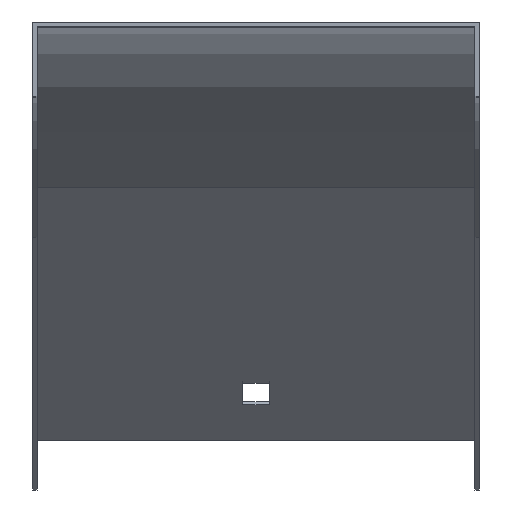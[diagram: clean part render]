
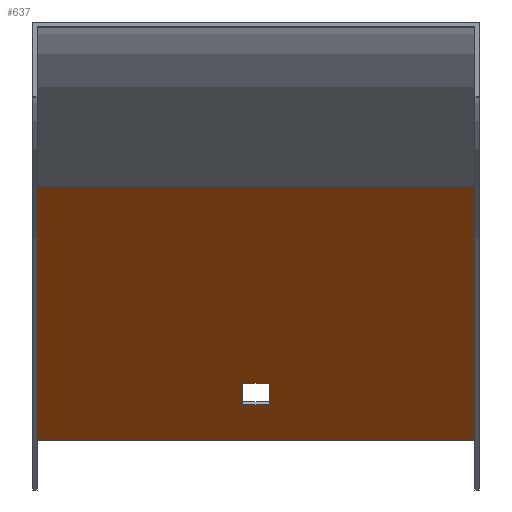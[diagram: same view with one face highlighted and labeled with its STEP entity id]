
A CAD part, top view. The second image highlights one B-rep face of the part: STEP entity #637.
In plain terms, the highlighted planar face has unit normal (0, -0.707, 0.707).
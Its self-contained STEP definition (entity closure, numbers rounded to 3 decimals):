
#20 = VERTEX_POINT ( 'NONE', #686 ) ;
#46 = VECTOR ( 'NONE', #848, 1000. ) ;
#82 = CARTESIAN_POINT ( 'NONE',  ( 51., -37.612, -169.809 ) ) ;
#90 = FACE_BOUND ( 'NONE', #601, .T. ) ;
#96 = CARTESIAN_POINT ( 'NONE',  ( 3., -37.612, -169.809 ) ) ;
#100 = DIRECTION ( 'NONE',  ( 1., 0., 0. ) ) ;
#127 = EDGE_CURVE ( 'NONE', #467, #215, #305, .T. ) ;
#132 = VERTEX_POINT ( 'NONE', #374 ) ;
#134 = DIRECTION ( 'NONE',  ( -1., 0., 0. ) ) ;
#156 = ORIENTED_EDGE ( 'NONE', *, *, #434, .T. ) ;
#159 = VECTOR ( 'NONE', #576, 1000. ) ;
#163 = CARTESIAN_POINT ( 'NONE',  ( 50., -95.185, -227.383 ) ) ;
#170 = CARTESIAN_POINT ( 'NONE',  ( 51., -82.104, -214.301 ) ) ;
#178 = CARTESIAN_POINT ( 'NONE',  ( 51., -37.612, -169.809 ) ) ;
#214 = LINE ( 'NONE', #543, #837 ) ;
#215 = VERTEX_POINT ( 'NONE', #513 ) ;
#223 = DIRECTION ( 'NONE',  ( -1., 0., 0. ) ) ;
#235 = DIRECTION ( 'NONE',  ( 0., 0.707, 0.707 ) ) ;
#241 = LINE ( 'NONE', #294, #685 ) ;
#278 = CARTESIAN_POINT ( 'NONE',  ( 51., -87.053, -219.251 ) ) ;
#294 = CARTESIAN_POINT ( 'NONE',  ( -50., -37.612, -169.809 ) ) ;
#299 = VECTOR ( 'NONE', #134, 1000. ) ;
#301 = EDGE_LOOP ( 'NONE', ( #636, #349, #156, #759 ) ) ;
#304 = EDGE_CURVE ( 'NONE', #394, #20, #311, .T. ) ;
#305 = LINE ( 'NONE', #178, #379 ) ;
#311 = LINE ( 'NONE', #96, #159 ) ;
#322 = CARTESIAN_POINT ( 'NONE',  ( 3., -82.104, -214.301 ) ) ;
#346 = VERTEX_POINT ( 'NONE', #163 ) ;
#349 = ORIENTED_EDGE ( 'NONE', *, *, #524, .F. ) ;
#353 = EDGE_CURVE ( 'NONE', #132, #394, #496, .T. ) ;
#374 = CARTESIAN_POINT ( 'NONE',  ( -3., -82.104, -214.301 ) ) ;
#379 = VECTOR ( 'NONE', #441, 1000. ) ;
#394 = VERTEX_POINT ( 'NONE', #322 ) ;
#434 = EDGE_CURVE ( 'NONE', #346, #467, #788, .T. ) ;
#441 = DIRECTION ( 'NONE',  ( -1., 0., 0. ) ) ;
#458 = ORIENTED_EDGE ( 'NONE', *, *, #353, .T. ) ;
#467 = VERTEX_POINT ( 'NONE', #523 ) ;
#473 = FACE_OUTER_BOUND ( 'NONE', #301, .T. ) ;
#474 = DIRECTION ( 'NONE',  ( 0., 0.707, 0.707 ) ) ;
#483 = DIRECTION ( 'NONE',  ( 0., -0.707, -0.707 ) ) ;
#484 = ORIENTED_EDGE ( 'NONE', *, *, #612, .T. ) ;
#485 = DIRECTION ( 'NONE',  ( 0., -0.707, 0.707 ) ) ;
#496 = LINE ( 'NONE', #170, #682 ) ;
#512 = CARTESIAN_POINT ( 'NONE',  ( -3., -87.053, -219.251 ) ) ;
#513 = CARTESIAN_POINT ( 'NONE',  ( -50., -37.612, -169.809 ) ) ;
#523 = CARTESIAN_POINT ( 'NONE',  ( 50., -37.612, -169.809 ) ) ;
#524 = EDGE_CURVE ( 'NONE', #346, #784, #536, .T. ) ;
#536 = LINE ( 'NONE', #863, #299 ) ;
#543 = CARTESIAN_POINT ( 'NONE',  ( -3., -37.612, -169.809 ) ) ;
#576 = DIRECTION ( 'NONE',  ( 0., -0.707, -0.707 ) ) ;
#601 = EDGE_LOOP ( 'NONE', ( #484, #795, #458, #735 ) ) ;
#612 = EDGE_CURVE ( 'NONE', #20, #861, #739, .T. ) ;
#636 = ORIENTED_EDGE ( 'NONE', *, *, #801, .F. ) ;
#637 = ADVANCED_FACE ( 'NONE', ( #473, #90 ), #680, .T. ) ;
#680 = PLANE ( 'NONE',  #857 ) ;
#682 = VECTOR ( 'NONE', #100, 1000. ) ;
#685 = VECTOR ( 'NONE', #235, 1000. ) ;
#686 = CARTESIAN_POINT ( 'NONE',  ( 3., -87.053, -219.251 ) ) ;
#712 = EDGE_CURVE ( 'NONE', #861, #132, #214, .T. ) ;
#735 = ORIENTED_EDGE ( 'NONE', *, *, #304, .T. ) ;
#739 = LINE ( 'NONE', #278, #758 ) ;
#758 = VECTOR ( 'NONE', #223, 1000. ) ;
#759 = ORIENTED_EDGE ( 'NONE', *, *, #127, .T. ) ;
#784 = VERTEX_POINT ( 'NONE', #820 ) ;
#788 = LINE ( 'NONE', #844, #46 ) ;
#795 = ORIENTED_EDGE ( 'NONE', *, *, #712, .T. ) ;
#801 = EDGE_CURVE ( 'NONE', #784, #215, #241, .T. ) ;
#820 = CARTESIAN_POINT ( 'NONE',  ( -50., -95.185, -227.383 ) ) ;
#837 = VECTOR ( 'NONE', #474, 1000. ) ;
#844 = CARTESIAN_POINT ( 'NONE',  ( 50., -37.612, -169.809 ) ) ;
#848 = DIRECTION ( 'NONE',  ( 0., 0.707, 0.707 ) ) ;
#857 = AXIS2_PLACEMENT_3D ( 'NONE', #82, #485, #483 ) ;
#861 = VERTEX_POINT ( 'NONE', #512 ) ;
#863 = CARTESIAN_POINT ( 'NONE',  ( 51., -95.185, -227.383 ) ) ;
